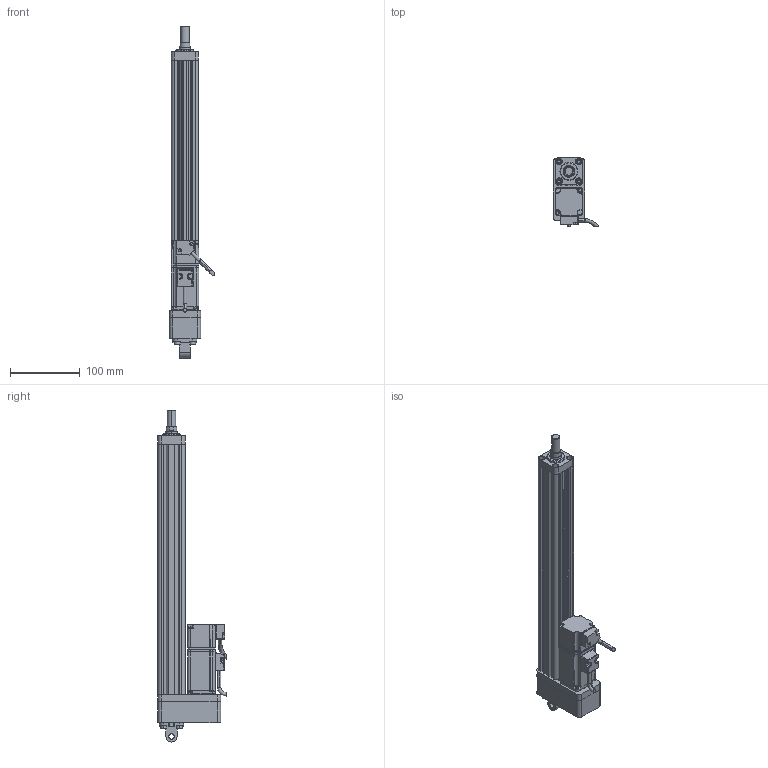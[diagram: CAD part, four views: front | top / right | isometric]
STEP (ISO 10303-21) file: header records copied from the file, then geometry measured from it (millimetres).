
FILE_DESCRIPTION (( 'STEP AP214' ), '1' );
FILE_NAME ('039-S300-D02-B-M5-C1-2.STEP', '2021-03-02T05:07:32', ( '' ), ( '' ), 'SwSTEP 2.0', 'SolidWorks 2018', '' );
FILE_SCHEMA (( 'AUTOMOTIVE_DESIGN' ));
Length unit declared in the file: millimetre
Products named in the file (8): ECMA-CX0401ES-40框號系列機種-100W低慣量系列; CMC039-LJB; F-ACE20CA_ACE_; CMC039-DT; 039-S300-D02-B-M5-C1-2; CMC039-FL; CMC039-GT; CMC039-HXT
Assembly tree (7 placements, depth 2):
  039-S300-D02-B-M5-C1-2
    CMC039-GT
    CMC039-LJB
    CMC039-FL
    CMC039-DT
    ECMA-CX0401ES-40框號系列機種-100W低慣量系列
    CMC039-HXT
    F-ACE20CA_ACE_
Bounding box: 65.34 x 97.89 x 477 mm (x, y, z)
Volume: 592804.3 mm3; surface area: 195666.5 mm2
Topology: 7 solids, 15 shells, 765 faces, 1996 edges, 1251 vertices
Faces by surface type: cylinder 321, plane 303, bspline 92, cone 49
Entity records: 29810 total; most frequent: CARTESIAN_POINT 11648, ORIENTED_EDGE 3926, DIRECTION 3331, EDGE_CURVE 1963, VERTEX_POINT 1251, AXIS2_PLACEMENT_3D 1181, VECTOR 969, LINE 969
